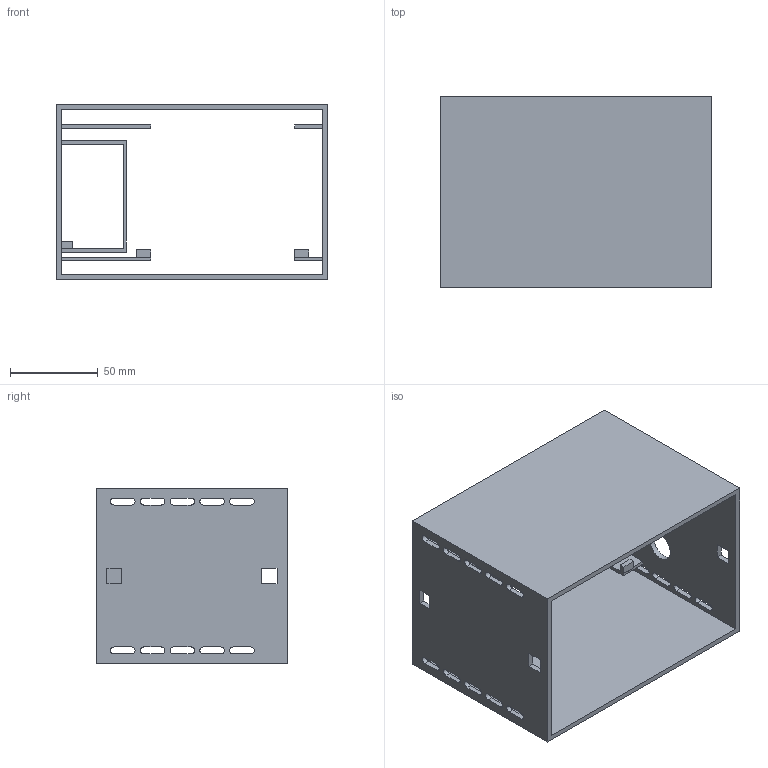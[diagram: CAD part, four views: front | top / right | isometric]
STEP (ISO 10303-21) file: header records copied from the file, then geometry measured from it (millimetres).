
FILE_DESCRIPTION(('Open CASCADE Model'),'2;1');
FILE_NAME('Open CASCADE Shape Model','2026-11-05T13:30:56',('Author'),( 'Open CASCADE'),'Open CASCADE STEP processor 7.8','Open CASCADE 7.8' ,'Unknown');
FILE_SCHEMA(('AUTOMOTIVE_DESIGN { 1 0 10303 214 1 1 1 1 }'));
Length unit declared in the file: millimetre
Products named in the file (1): Open CASCADE STEP translator 7.8 2
Bounding box: 155 x 109 x 100 mm (x, y, z)
Volume: 172492.4 mm3; surface area: 127119.2 mm2
Topology: 1 solids, 1 shells, 152 faces, 435 edges, 290 vertices
Faces by surface type: plane 111, cylinder 41
Full cylindrical faces by diameter (mm): 16 x1
Entity records: 10358 total; most frequent: CARTESIAN_POINT 2104, DIRECTION 1337, ORIENTED_EDGE 870, PCURVE 870, DEFINITIONAL_REPRESENTATION 870, LINE 785, VECTOR 785, EDGE_CURVE 435
